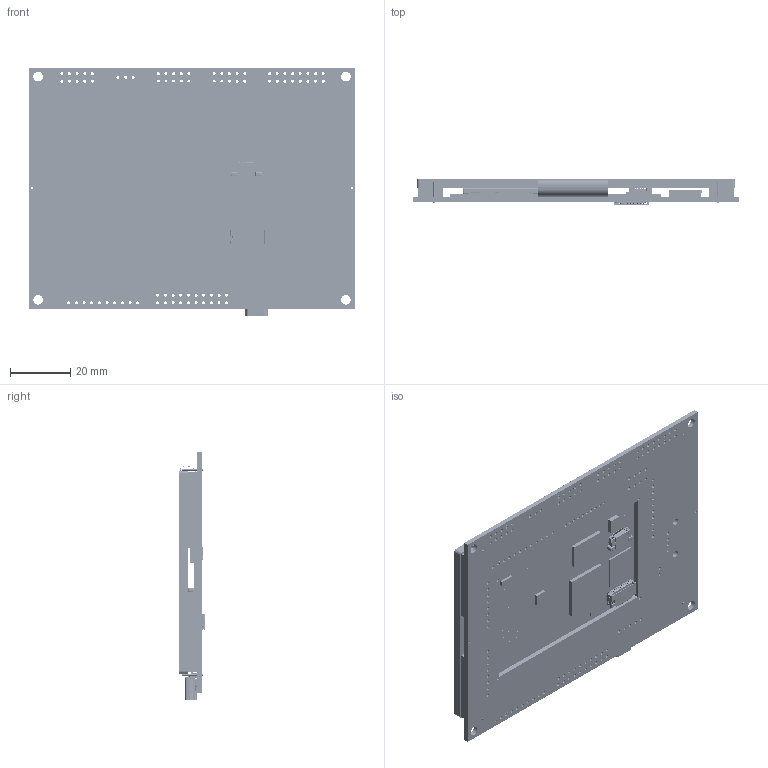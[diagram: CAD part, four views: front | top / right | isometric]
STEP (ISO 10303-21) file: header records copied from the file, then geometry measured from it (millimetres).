
FILE_DESCRIPTION (( 'STEP AP214' ), '1' );
FILE_NAME ('TW480x272C-K619SE4R2NU.STEP', '2015-02-18T10:38:01', ( '' ), ( '' ), 'SwSTEP 2.0', 'SolidWorks 2015', '' );
FILE_SCHEMA (( 'AUTOMOTIVE_DESIGN' ));
Length unit declared in the file: millimetre
Products named in the file (16): micro sd connector; lcd connector; pn28 pcb; MOLEX - 54819-0572 - Mini USB; tw43 NT; TW480x272C-K619SE4R2NU; Micro SD; pn28; 40 pin connector
Assembly tree (8 placements, depth 3):
  micro sd connector
  lcd connector
  pn28 pcb
  MOLEX - 54819-0572 - Mini USB
  tw43 NT
Bounding box: 108 x 8.55 x 82.5 mm (x, y, z)
Volume: 37168.6 mm3; surface area: 39940.3 mm2
Topology: 10 solids, 11 shells, 4802 faces, 12478 edges, 8200 vertices
Faces by surface type: plane 2897, cylinder 1830, bspline 75
Entity records: 176892 total; most frequent: CARTESIAN_POINT 27448, DIRECTION 25460, ORIENTED_EDGE 24827, EDGE_CURVE 12446, VECTOR 8570, LINE 8570, AXIS2_PLACEMENT_3D 8445, VERTEX_POINT 8200
